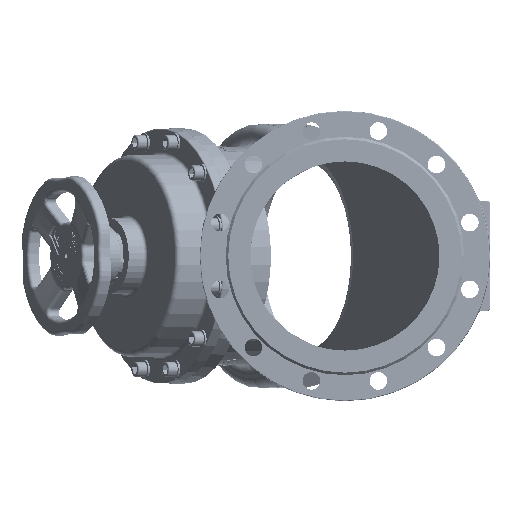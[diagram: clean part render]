
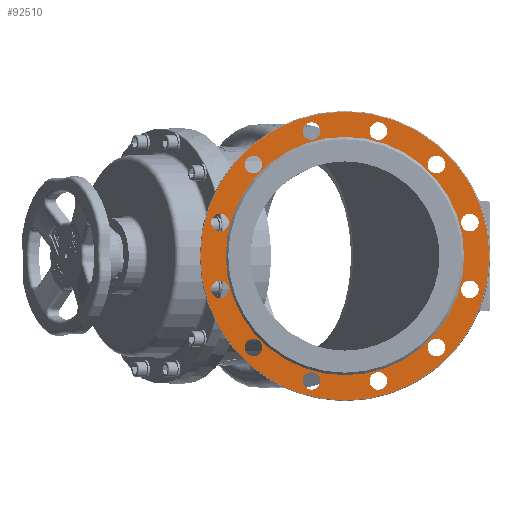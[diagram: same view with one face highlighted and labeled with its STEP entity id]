
A CAD part, left-side view. The second image highlights one B-rep face of the part: STEP entity #92510.
In plain terms, the highlighted planar face has unit normal (-1, 0, 0).
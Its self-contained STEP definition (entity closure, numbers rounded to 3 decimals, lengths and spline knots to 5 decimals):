
#2023=FACE_BOUND('',#28784,.T.);
#2024=FACE_BOUND('',#28785,.T.);
#2025=FACE_BOUND('',#28786,.T.);
#2026=FACE_BOUND('',#28787,.T.);
#2027=FACE_BOUND('',#28788,.T.);
#2028=FACE_BOUND('',#28789,.T.);
#2029=FACE_BOUND('',#28790,.T.);
#2030=FACE_BOUND('',#28791,.T.);
#2031=FACE_BOUND('',#28792,.T.);
#2032=FACE_BOUND('',#28793,.T.);
#2033=FACE_BOUND('',#28794,.T.);
#2034=FACE_BOUND('',#28795,.T.);
#2035=FACE_BOUND('',#28796,.T.);
#2510=PLANE('',#98982);
#22829=FACE_OUTER_BOUND('',#28783,.T.);
#28783=EDGE_LOOP('',(#63992));
#28784=EDGE_LOOP('',(#63993));
#28785=EDGE_LOOP('',(#63994));
#28786=EDGE_LOOP('',(#63995));
#28787=EDGE_LOOP('',(#63996));
#28788=EDGE_LOOP('',(#63997));
#28789=EDGE_LOOP('',(#63998));
#28790=EDGE_LOOP('',(#63999));
#28791=EDGE_LOOP('',(#64000));
#28792=EDGE_LOOP('',(#64001));
#28793=EDGE_LOOP('',(#64002));
#28794=EDGE_LOOP('',(#64003));
#28795=EDGE_LOOP('',(#64004));
#28796=EDGE_LOOP('',(#64005));
#35039=CIRCLE('',#98653,0.014);
#35041=CIRCLE('',#98656,0.014);
#35043=CIRCLE('',#98659,0.014);
#35045=CIRCLE('',#98662,0.014);
#35047=CIRCLE('',#98665,0.014);
#35049=CIRCLE('',#98668,0.014);
#35090=CIRCLE('',#98724,0.014);
#35092=CIRCLE('',#98727,0.014);
#35094=CIRCLE('',#98730,0.014);
#35096=CIRCLE('',#98733,0.014);
#35098=CIRCLE('',#98736,0.014);
#35100=CIRCLE('',#98739,0.014);
#35132=CIRCLE('',#98784,0.229);
#35163=CIRCLE('',#98824,0.189);
#39449=VERTEX_POINT('',#133186);
#39451=VERTEX_POINT('',#133192);
#39453=VERTEX_POINT('',#133198);
#39455=VERTEX_POINT('',#133204);
#39457=VERTEX_POINT('',#133210);
#39459=VERTEX_POINT('',#133216);
#39506=VERTEX_POINT('',#133512);
#39508=VERTEX_POINT('',#133518);
#39510=VERTEX_POINT('',#133524);
#39512=VERTEX_POINT('',#133530);
#39514=VERTEX_POINT('',#133536);
#39516=VERTEX_POINT('',#133542);
#39560=VERTEX_POINT('',#133995);
#39591=VERTEX_POINT('',#134218);
#48587=EDGE_CURVE('',#39449,#39449,#35039,.T.);
#48590=EDGE_CURVE('',#39451,#39451,#35041,.T.);
#48593=EDGE_CURVE('',#39453,#39453,#35043,.T.);
#48596=EDGE_CURVE('',#39455,#39455,#35045,.T.);
#48599=EDGE_CURVE('',#39457,#39457,#35047,.T.);
#48602=EDGE_CURVE('',#39459,#39459,#35049,.T.);
#48663=EDGE_CURVE('',#39506,#39506,#35090,.T.);
#48666=EDGE_CURVE('',#39508,#39508,#35092,.T.);
#48669=EDGE_CURVE('',#39510,#39510,#35094,.T.);
#48672=EDGE_CURVE('',#39512,#39512,#35096,.T.);
#48675=EDGE_CURVE('',#39514,#39514,#35098,.T.);
#48678=EDGE_CURVE('',#39516,#39516,#35100,.T.);
#48732=EDGE_CURVE('',#39560,#39560,#35132,.T.);
#48769=EDGE_CURVE('',#39591,#39591,#35163,.T.);
#63992=ORIENTED_EDGE('',*,*,#48732,.T.);
#63993=ORIENTED_EDGE('',*,*,#48678,.F.);
#63994=ORIENTED_EDGE('',*,*,#48675,.F.);
#63995=ORIENTED_EDGE('',*,*,#48672,.F.);
#63996=ORIENTED_EDGE('',*,*,#48669,.F.);
#63997=ORIENTED_EDGE('',*,*,#48666,.F.);
#63998=ORIENTED_EDGE('',*,*,#48663,.F.);
#63999=ORIENTED_EDGE('',*,*,#48769,.T.);
#64000=ORIENTED_EDGE('',*,*,#48602,.T.);
#64001=ORIENTED_EDGE('',*,*,#48599,.T.);
#64002=ORIENTED_EDGE('',*,*,#48596,.T.);
#64003=ORIENTED_EDGE('',*,*,#48593,.T.);
#64004=ORIENTED_EDGE('',*,*,#48590,.T.);
#64005=ORIENTED_EDGE('',*,*,#48587,.T.);
#92510=ADVANCED_FACE('',(#22829,#2023,#2024,#2025,#2026,#2027,#2028,#2029,
#2030,#2031,#2032,#2033,#2034,#2035),#2510,.T.);
#98653=AXIS2_PLACEMENT_3D('',#133188,#108080,#108081);
#98656=AXIS2_PLACEMENT_3D('',#133194,#108087,#108088);
#98659=AXIS2_PLACEMENT_3D('',#133200,#108094,#108095);
#98662=AXIS2_PLACEMENT_3D('',#133206,#108101,#108102);
#98665=AXIS2_PLACEMENT_3D('',#133212,#108108,#108109);
#98668=AXIS2_PLACEMENT_3D('',#133218,#108115,#108116);
#98724=AXIS2_PLACEMENT_3D('',#133514,#108240,#108241);
#98727=AXIS2_PLACEMENT_3D('',#133520,#108247,#108248);
#98730=AXIS2_PLACEMENT_3D('',#133526,#108254,#108255);
#98733=AXIS2_PLACEMENT_3D('',#133532,#108261,#108262);
#98736=AXIS2_PLACEMENT_3D('',#133538,#108268,#108269);
#98739=AXIS2_PLACEMENT_3D('',#133544,#108275,#108276);
#98784=AXIS2_PLACEMENT_3D('',#133996,#108370,#108371);
#98824=AXIS2_PLACEMENT_3D('',#134219,#108454,#108455);
#98982=AXIS2_PLACEMENT_3D('',#152967,#108829,#108830);
#108080=DIRECTION('center_axis',(1.,0.,0.));
#108081=DIRECTION('ref_axis',(0.,0.5,-0.866));
#108087=DIRECTION('center_axis',(1.,0.,0.));
#108088=DIRECTION('ref_axis',(0.,0.866,-0.5));
#108094=DIRECTION('center_axis',(1.,0.,0.));
#108095=DIRECTION('ref_axis',(0.,1.,0.));
#108101=DIRECTION('center_axis',(1.,0.,0.));
#108102=DIRECTION('ref_axis',(0.,0.866,0.5));
#108108=DIRECTION('center_axis',(1.,0.,0.));
#108109=DIRECTION('ref_axis',(0.,0.5,0.866));
#108115=DIRECTION('center_axis',(1.,0.,0.));
#108116=DIRECTION('ref_axis',(0.,0.,1.));
#108240=DIRECTION('center_axis',(-1.,0.,0.));
#108241=DIRECTION('ref_axis',(0.,0.5,0.866));
#108247=DIRECTION('center_axis',(-1.,0.,0.));
#108248=DIRECTION('ref_axis',(0.,0.866,0.5));
#108254=DIRECTION('center_axis',(-1.,0.,0.));
#108255=DIRECTION('ref_axis',(0.,1.,0.));
#108261=DIRECTION('center_axis',(-1.,0.,0.));
#108262=DIRECTION('ref_axis',(0.,0.866,-0.5));
#108268=DIRECTION('center_axis',(-1.,0.,0.));
#108269=DIRECTION('ref_axis',(0.,0.5,-0.866));
#108275=DIRECTION('center_axis',(-1.,0.,0.));
#108276=DIRECTION('ref_axis',(0.,0.,-1.));
#108370=DIRECTION('center_axis',(-1.,0.,0.));
#108371=DIRECTION('ref_axis',(0.,0.,1.));
#108454=DIRECTION('center_axis',(1.,0.,0.));
#108455=DIRECTION('ref_axis',(0.,0.,-1.));
#108829=DIRECTION('center_axis',(-1.,0.,0.));
#108830=DIRECTION('ref_axis',(0.,0.,1.));
#133186=CARTESIAN_POINT('',(-0.421,0.19801,0.06706));
#133188=CARTESIAN_POINT('Origin',(-0.421,0.19801,0.05306));
#133192=CARTESIAN_POINT('',(-0.421,0.14496,0.15896));
#133194=CARTESIAN_POINT('Origin',(-0.421,0.14496,0.14496));
#133198=CARTESIAN_POINT('',(-0.421,0.05306,0.21201));
#133200=CARTESIAN_POINT('Origin',(-0.421,0.05306,0.19801));
#133204=CARTESIAN_POINT('',(-0.421,-0.05306,0.21201));
#133206=CARTESIAN_POINT('Origin',(-0.421,-0.05306,0.19801));
#133210=CARTESIAN_POINT('',(-0.421,-0.14496,0.15896));
#133212=CARTESIAN_POINT('Origin',(-0.421,-0.14496,0.14496));
#133216=CARTESIAN_POINT('',(-0.421,-0.19801,0.06706));
#133218=CARTESIAN_POINT('Origin',(-0.421,-0.19801,0.05306));
#133512=CARTESIAN_POINT('',(-0.421,0.19801,-0.06706));
#133514=CARTESIAN_POINT('Origin',(-0.421,0.19801,-0.05306));
#133518=CARTESIAN_POINT('',(-0.421,0.14496,-0.15896));
#133520=CARTESIAN_POINT('Origin',(-0.421,0.14496,-0.14496));
#133524=CARTESIAN_POINT('',(-0.421,0.05306,-0.21201));
#133526=CARTESIAN_POINT('Origin',(-0.421,0.05306,-0.19801));
#133530=CARTESIAN_POINT('',(-0.421,-0.05306,-0.21201));
#133532=CARTESIAN_POINT('Origin',(-0.421,-0.05306,-0.19801));
#133536=CARTESIAN_POINT('',(-0.421,-0.14496,-0.15896));
#133538=CARTESIAN_POINT('Origin',(-0.421,-0.14496,-0.14496));
#133542=CARTESIAN_POINT('',(-0.421,-0.19801,-0.06706));
#133544=CARTESIAN_POINT('Origin',(-0.421,-0.19801,-0.05306));
#133995=CARTESIAN_POINT('',(-0.421,0.,-0.229));
#133996=CARTESIAN_POINT('Origin',(-0.421,0.,0.));
#134218=CARTESIAN_POINT('',(-0.421,0.,0.189));
#134219=CARTESIAN_POINT('Origin',(-0.421,0.,0.));
#152967=CARTESIAN_POINT('Origin',(-0.421,0.189,0.));
